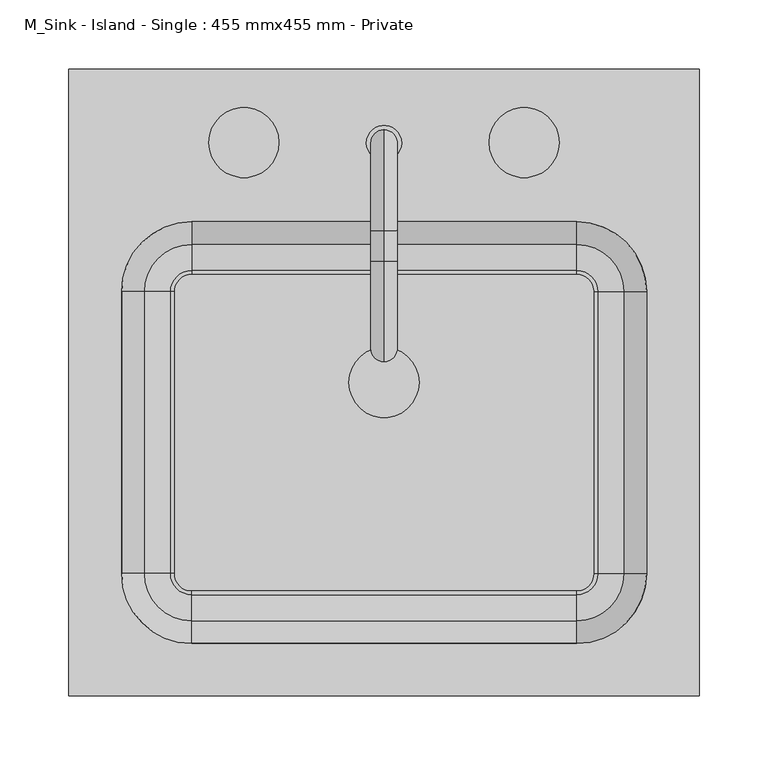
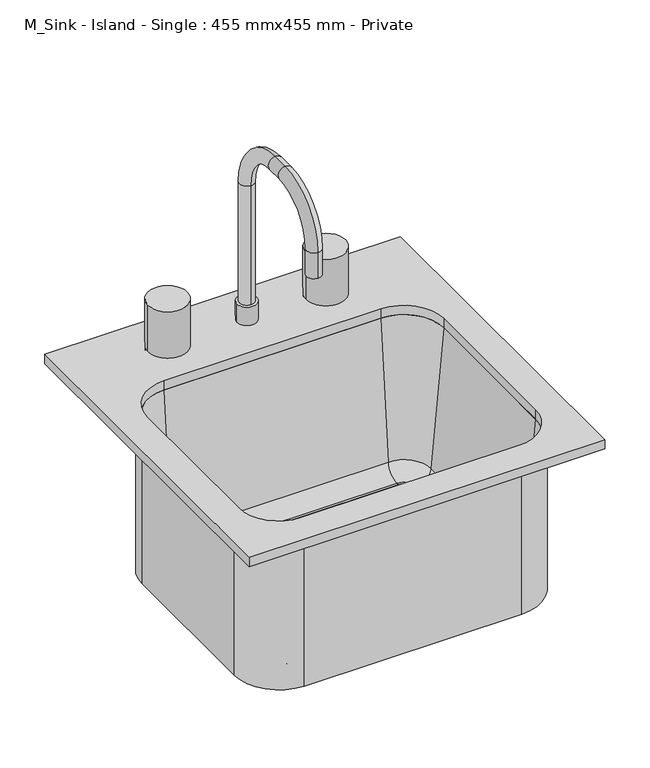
"""IFC4 building model written with IfcOpenShell, lengths in millimetres: flow terminal geometry, M_Sink - Island - Single : 455 mmx455 mm - Private."""

from ifc_helpers import new_model, si_unit, point, frame, frame_2d, origin, origin_with_axes, origin_2d, place, context, project, spatial, polyline, circle_curve, ellipse_curve, trimmed, segment, composite_curve, outline, extrude, source, transform, mapped, element, save
from ifc_brep_helpers import plane_surface, cylinder_surface, revolved_surface, advanced_brep


def m_sink_island_single_455_mmx455_mm_private_e9fe1f2b(model_context):
    return source(origin(), model_context, "Body", "SolidModel", [
        advanced_brep(
        [(196.85, 65.8454011, -212.525), (139.7, 122.9954011, -212.525), (139.7, 122.9954011, 0.0), (196.85, 65.8454011, 0.0), (152.4, 65.8454011, -212.525), (139.7, 78.5454011, -212.525), (152.4, 65.8454011, -203.0), (139.7, 78.5454011, -203.0), (154.9884182, 65.8454011, -203.0), (139.7, 81.1338193, -203.0), (173.9659272, 65.8454011, -185.6103169), (139.7, 100.1113283, -185.6103169), (190.5, 65.8454011, 0.0), (139.7, 116.6454011, 0.0), (196.85, -138.7, 0.0), (196.85, -138.7, -212.525), (152.4, -138.7, -212.525), (152.4, -138.7, -203.0), (154.9884182, -138.7, -203.0), (173.9659272, -138.7, -185.6103169), (190.5, -138.7, 0.0), (139.7, -195.85, -212.525), (139.7, -195.85, 0.0), (139.7, -151.4, -212.525), (139.7, -151.4, -203.0), (139.7, -153.9884182, -203.0), (139.7, -172.9659272, -185.6103169), (139.7, -189.5, 0.0), (-139.5, -195.85, 0.0), (-139.5, -195.85, -212.525), (-139.5, -151.4, -212.525), (-139.5, -151.4, -203.0), (-139.5, -153.9884182, -203.0), (-139.5, -172.9659272, -185.6103169), (-139.5, -189.5, 0.0), (-196.65, -138.7, -212.525), (-196.65, -138.7, 0.0), (-152.2, -138.7, -212.525), (-152.2, -138.7, -203.0), (-154.7884182, -138.7, -203.0), (-173.7659272, -138.7, -185.6103169), (-190.3, -138.7, 0.0), (-196.65, 65.8454011, 0.0), (-196.65, 65.8454011, -212.525), (-152.2, 65.8454011, -212.525), (-152.2, 65.8454011, -203.0), (-154.7884182, 65.8454011, -203.0), (-173.7659272, 65.8454011, -185.6103169), (-190.3, 65.8454011, 0.0), (-139.5, 122.9954011, -212.525), (-139.5, 122.9954011, 0.0), (-139.5, 78.5454011, -212.525), (-139.5, 78.5454011, -203.0), (-139.5, 81.1338193, -203.0), (-139.5, 100.1113283, -185.6103169), (-139.5, 116.6454011, 0.0)],
        [
            (0, 1, circle_curve(frame((139.7, 65.8454011, -212.525), z_axis=(0.0, 0.0, 1.0), x_axis=(0.0, 1.0, 0.0)), 57.15)),
            (1, 2),
            (2, 3, circle_curve(frame((139.7, 65.8454011, 0.0), z_axis=(0.0, 0.0, -1.0), x_axis=(0.0, 1.0, 0.0)), 57.15)),
            (3, 0),
            (4, 5, circle_curve(frame((139.7, 65.8454011, -212.525), z_axis=(0.0, 0.0, 1.0), x_axis=(0.0, 1.0, 0.0)), 12.7)),
            (5, 1),
            (0, 4),
            (6, 7, circle_curve(frame((139.7, 65.8454011, -203.0), z_axis=(0.0, 0.0, 1.0), x_axis=(0.0, 1.0, 0.0)), 12.7)),
            (7, 5),
            (4, 6),
            (8, 9, circle_curve(frame((139.7, 65.8454011, -203.0), z_axis=(0.0, 0.0, 1.0), x_axis=(0.0, 1.0, 0.0)), 15.2884182)),
            (9, 7),
            (6, 8),
            (10, 11, circle_curve(frame((139.7, 65.8454011, -185.6103169), z_axis=(0.0, 0.0, 1.0), x_axis=(0.0, 1.0, 0.0)), 34.2659272)),
            (11, 9, circle_curve(frame((139.7, 81.1338193, -183.95), z_axis=(-1.0, 0.0, 0.0), x_axis=(0.0, 1.0, 0.0)), 19.05)),
            (8, 10, circle_curve(frame((154.9884182, 65.8454011, -183.95), z_axis=(0.0, -1.0, 0.0), x_axis=(1.0, 0.0, 0.0)), 19.05)),
            (12, 13, circle_curve(frame((139.7, 65.8454011, 0.0), z_axis=(0.0, 0.0, 1.0), x_axis=(0.0, 1.0, 0.0)), 50.8)),
            (13, 11),
            (10, 12),
            (2, 13),
            (12, 3),
            (3, 14),
            (14, 15),
            (15, 0),
            (15, 16),
            (16, 4),
            (16, 17),
            (17, 6),
            (17, 18),
            (18, 8),
            (18, 19, circle_curve(frame((154.9884182, -138.7, -183.95), z_axis=(0.0, -1.0, 0.0), x_axis=(1.0, 0.0, 0.0)), 19.05)),
            (19, 10),
            (19, 20),
            (20, 12),
            (20, 14),
            (21, 15, circle_curve(frame((139.7, -138.7, -212.525), z_axis=(0.0, 0.0, 1.0), x_axis=(1.0, 0.0, 0.0)), 57.15)),
            (14, 22, circle_curve(frame((139.7, -138.7, 0.0), z_axis=(0.0, 0.0, -1.0), x_axis=(1.0, 0.0, 0.0)), 57.15)),
            (22, 21),
            (23, 16, circle_curve(frame((139.7, -138.7, -212.525), z_axis=(0.0, 0.0, 1.0), x_axis=(1.0, 0.0, 0.0)), 12.7)),
            (21, 23),
            (24, 17, circle_curve(frame((139.7, -138.7, -203.0), z_axis=(0.0, 0.0, 1.0), x_axis=(1.0, 0.0, 0.0)), 12.7)),
            (23, 24),
            (25, 18, circle_curve(frame((139.7, -138.7, -203.0), z_axis=(0.0, 0.0, 1.0), x_axis=(1.0, 0.0, 0.0)), 15.2884182)),
            (24, 25),
            (26, 19, circle_curve(frame((139.7, -138.7, -185.6103169), z_axis=(0.0, 0.0, 1.0), x_axis=(1.0, 0.0, 0.0)), 34.2659272)),
            (25, 26, circle_curve(frame((139.7, -153.9884182, -183.95), z_axis=(-1.0, 0.0, 0.0), x_axis=(0.0, -1.0, 0.0)), 19.05)),
            (27, 20, circle_curve(frame((139.7, -138.7, 0.0), z_axis=(0.0, 0.0, 1.0), x_axis=(1.0, 0.0, 0.0)), 50.8)),
            (26, 27),
            (27, 22),
            (22, 28),
            (28, 29),
            (29, 21),
            (29, 30),
            (30, 23),
            (30, 31),
            (31, 24),
            (31, 32),
            (32, 25),
            (32, 33, circle_curve(frame((-139.5, -153.9884182, -183.95), z_axis=(-1.0, 0.0, 0.0), x_axis=(0.0, -1.0, 0.0)), 19.05)),
            (33, 26),
            (33, 34),
            (34, 27),
            (34, 28),
            (35, 29, circle_curve(frame((-139.5, -138.7, -212.525), z_axis=(0.0, 0.0, 1.0), x_axis=(0.0, -1.0, 0.0)), 57.15)),
            (28, 36, circle_curve(frame((-139.5, -138.7, 0.0), z_axis=(0.0, 0.0, -1.0), x_axis=(0.0, -1.0, 0.0)), 57.15)),
            (36, 35),
            (37, 30, circle_curve(frame((-139.5, -138.7, -212.525), z_axis=(0.0, 0.0, 1.0), x_axis=(0.0, -1.0, 0.0)), 12.7)),
            (35, 37),
            (38, 31, circle_curve(frame((-139.5, -138.7, -203.0), z_axis=(0.0, 0.0, 1.0), x_axis=(0.0, -1.0, 0.0)), 12.7)),
            (37, 38),
            (39, 32, circle_curve(frame((-139.5, -138.7, -203.0), z_axis=(0.0, 0.0, 1.0), x_axis=(0.0, -1.0, 0.0)), 15.2884182)),
            (38, 39),
            (40, 33, circle_curve(frame((-139.5, -138.7, -185.6103169), z_axis=(0.0, 0.0, 1.0), x_axis=(0.0, -1.0, 0.0)), 34.2659272)),
            (39, 40, circle_curve(frame((-154.7884182, -138.7, -183.95), z_axis=(0.0, 1.0, 0.0), x_axis=(-1.0, 0.0, 0.0)), 19.05)),
            (41, 34, circle_curve(frame((-139.5, -138.7, 0.0), z_axis=(0.0, 0.0, 1.0), x_axis=(0.0, -1.0, 0.0)), 50.8)),
            (40, 41),
            (41, 36),
            (36, 42),
            (42, 43),
            (43, 35),
            (43, 44),
            (44, 37),
            (44, 45),
            (45, 38),
            (45, 46),
            (46, 39),
            (46, 47, circle_curve(frame((-154.7884182, 65.8454011, -183.95), z_axis=(0.0, 1.0, 0.0), x_axis=(-1.0, 0.0, 0.0)), 19.05)),
            (47, 40),
            (47, 48),
            (48, 41),
            (48, 42),
            (49, 43, circle_curve(frame((-139.5, 65.8454011, -212.525), z_axis=(0.0, 0.0, 1.0), x_axis=(-1.0, 0.0, 0.0)), 57.15)),
            (42, 50, circle_curve(frame((-139.5, 65.8454011, 0.0), z_axis=(0.0, 0.0, -1.0), x_axis=(-1.0, 0.0, 0.0)), 57.15)),
            (50, 49),
            (51, 44, circle_curve(frame((-139.5, 65.8454011, -212.525), z_axis=(0.0, 0.0, 1.0), x_axis=(-1.0, 0.0, 0.0)), 12.7)),
            (49, 51),
            (52, 45, circle_curve(frame((-139.5, 65.8454011, -203.0), z_axis=(0.0, 0.0, 1.0), x_axis=(-1.0, 0.0, 0.0)), 12.7)),
            (51, 52),
            (53, 46, circle_curve(frame((-139.5, 65.8454011, -203.0), z_axis=(0.0, 0.0, 1.0), x_axis=(-1.0, 0.0, 0.0)), 15.2884182)),
            (52, 53),
            (54, 47, circle_curve(frame((-139.5, 65.8454011, -185.6103169), z_axis=(0.0, 0.0, 1.0), x_axis=(-1.0, 0.0, 0.0)), 34.2659272)),
            (53, 54, circle_curve(frame((-139.5, 81.1338193, -183.95), z_axis=(1.0, 0.0, 0.0), x_axis=(0.0, 1.0, 0.0)), 19.05)),
            (55, 48, circle_curve(frame((-139.5, 65.8454011, 0.0), z_axis=(0.0, 0.0, 1.0), x_axis=(-1.0, 0.0, 0.0)), 50.8)),
            (54, 55),
            (55, 50),
            (50, 2),
            (1, 49),
            (5, 51),
            (7, 52),
            (9, 53),
            (11, 54),
            (13, 55),
        ],
        [
            cylinder_surface(frame((139.7, 65.8454011, -914.4), z_axis=(0.0, 0.0, -1.0), x_axis=(0.0, 1.0, 0.0)), 57.15),
            plane_surface(frame((139.7, 65.8454011, -212.525), z_axis=(0.0, 0.0, -1.0), x_axis=(0.0, 1.0, 0.0))),
            revolved_surface(polyline([(139.7, 78.5454011, -212.52499999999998), (139.7, 78.5454011, -203.0)]), (139.7, 65.8454011, -914.4), (0.0, 0.0, -1.0)),
            plane_surface(frame((139.7, 65.8454011, -203.0), z_axis=(0.0, 0.0, 1.0), x_axis=(0.0, 1.0, 0.0))),
            revolved_surface(trimmed(ellipse_curve(frame((139.7, 81.1338193, -183.95), z_axis=(1.0, 0.0, 0.0), x_axis=(0.0, 1.0, 0.0)), 19.05, 19.05), [point((139.7, 81.1338193, -203.0))], [point((139.7, 100.1113283, -185.6103169))], True, "CARTESIAN"), (139.7, 65.8454011, -914.4), (0.0, 0.0, -1.0)),
            revolved_surface(polyline([(139.7, 100.1113283, -185.6103169), (139.7, 116.6454011, 0.0)]), (139.7, 65.8454011, -914.4), (0.0, 0.0, -1.0)),
            plane_surface(frame((139.7, 65.8454011, 0.0), z_axis=(0.0, 0.0, 1.0), x_axis=(0.0, 1.0, 0.0))),
            plane_surface(frame((196.85, 65.8454011, 0.0), z_axis=(1.0, 0.0, 0.0), x_axis=(0.0, -1.0, 0.0))),
            plane_surface(frame((196.85, 65.8454011, -212.525), z_axis=(0.0, 0.0, -1.0), x_axis=(0.0, -1.0, 0.0))),
            plane_surface(frame((152.4, 65.8454011, -212.525), z_axis=(-1.0, 0.0, 0.0), x_axis=(0.0, -1.0, 0.0))),
            plane_surface(frame((152.4, 65.8454011, -203.0), z_axis=(0.0, 0.0, 1.0), x_axis=(0.0, -1.0, 0.0))),
            revolved_surface(polyline([(174.03841820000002, -138.7, -183.95), (174.03841820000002, 65.8454011, -183.95)]), (154.9884182, 65.8454011, -183.95), (0.0, -1.0, 0.0)),
            plane_surface(frame((173.9659272, 65.8454011, -185.6103169), z_axis=(-0.996055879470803, 0.0, 0.08872815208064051), x_axis=(0.0, -1.0, 0.0))),
            plane_surface(frame((190.5, 65.8454011, 0.0), z_axis=(0.0, 0.0, 1.0), x_axis=(0.0, -1.0, 0.0))),
            cylinder_surface(frame((139.7, -138.7, -914.4), z_axis=(0.0, 0.0, -1.0), x_axis=(1.0, 0.0, 0.0)), 57.15),
            plane_surface(frame((139.7, -138.7, -212.525), z_axis=(0.0, 0.0, -1.0), x_axis=(1.0, 0.0, 0.0))),
            revolved_surface(polyline([(152.39999999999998, -138.7, -212.52499999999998), (152.39999999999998, -138.7, -203.0)]), (139.7, -138.7, -914.4), (0.0, 0.0, -1.0)),
            plane_surface(frame((139.7, -138.7, -203.0), z_axis=(0.0, 0.0, 1.0), x_axis=(1.0, 0.0, 0.0))),
            revolved_surface(trimmed(ellipse_curve(frame((154.9884182, -138.7, -183.95), z_axis=(0.0, -1.0, 0.0), x_axis=(1.0, 0.0, 0.0)), 19.05, 19.05), [point((154.9884182, -138.7, -203.0))], [point((173.9659272, -138.7, -185.6103169))], True, "CARTESIAN"), (139.7, -138.7, -914.4), (0.0, 0.0, -1.0)),
            revolved_surface(polyline([(173.9659272, -138.7, -185.6103169), (190.5, -138.7, 0.0)]), (139.7, -138.7, -914.4), (0.0, 0.0, -1.0)),
            plane_surface(frame((139.7, -138.7, 0.0), z_axis=(0.0, 0.0, 1.0), x_axis=(1.0, 0.0, 0.0))),
            plane_surface(frame((139.7, -195.85, 0.0), z_axis=(0.0, -1.0, 0.0), x_axis=(-1.0, 0.0, 0.0))),
            plane_surface(frame((139.7, -195.85, -212.525), z_axis=(0.0, 0.0, -1.0), x_axis=(-1.0, 0.0, 0.0))),
            plane_surface(frame((139.7, -151.4, -212.525), z_axis=(0.0, 1.0, 0.0), x_axis=(-1.0, 0.0, 0.0))),
            plane_surface(frame((139.7, -151.4, -203.0), z_axis=(0.0, 0.0, 1.0), x_axis=(-1.0, 0.0, 0.0))),
            revolved_surface(polyline([(-139.5, -173.03841820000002, -183.95), (139.7, -173.03841820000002, -183.95)]), (139.7, -153.9884182, -183.95), (-1.0, 0.0, 0.0)),
            plane_surface(frame((139.7, -172.9659272, -185.6103169), z_axis=(0.0, 0.996055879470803, 0.08872815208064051), x_axis=(-1.0, 0.0, 0.0))),
            plane_surface(frame((139.7, -189.5, 0.0), z_axis=(0.0, 0.0, 1.0), x_axis=(-1.0, 0.0, 0.0))),
            cylinder_surface(frame((-139.5, -138.7, -914.4), z_axis=(0.0, 0.0, -1.0), x_axis=(0.0, -1.0, 0.0)), 57.15),
            plane_surface(frame((-139.5, -138.7, -212.525), z_axis=(0.0, 0.0, -1.0), x_axis=(0.0, -1.0, 0.0))),
            revolved_surface(polyline([(-139.5, -151.39999999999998, -212.52499999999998), (-139.5, -151.39999999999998, -203.0)]), (-139.5, -138.7, -914.4), (0.0, 0.0, -1.0)),
            plane_surface(frame((-139.5, -138.7, -203.0), z_axis=(0.0, 0.0, 1.0), x_axis=(0.0, -1.0, 0.0))),
            revolved_surface(trimmed(ellipse_curve(frame((-139.5, -153.9884182, -183.95), z_axis=(-1.0, 0.0, 0.0), x_axis=(0.0, -1.0, 0.0)), 19.05, 19.05), [point((-139.5, -153.9884182, -203.0))], [point((-139.5, -172.9659272, -185.6103169))], True, "CARTESIAN"), (-139.5, -138.7, -914.4), (0.0, 0.0, -1.0)),
            revolved_surface(polyline([(-139.5, -172.9659272, -185.6103169), (-139.5, -189.5, 0.0)]), (-139.5, -138.7, -914.4), (0.0, 0.0, -1.0)),
            plane_surface(frame((-139.5, -138.7, 0.0), z_axis=(0.0, 0.0, 1.0), x_axis=(0.0, -1.0, 0.0))),
            plane_surface(frame((-196.65, -138.7, 0.0), z_axis=(-1.0, 0.0, 0.0), x_axis=(0.0, 1.0, 0.0))),
            plane_surface(frame((-196.65, -138.7, -212.525), z_axis=(0.0, 0.0, -1.0), x_axis=(0.0, 1.0, 0.0))),
            plane_surface(frame((-152.2, -138.7, -212.525), z_axis=(1.0, 0.0, 0.0), x_axis=(0.0, 1.0, 0.0))),
            plane_surface(frame((-152.2, -138.7, -203.0), z_axis=(0.0, 0.0, 1.0), x_axis=(0.0, 1.0, 0.0))),
            revolved_surface(polyline([(-173.8384182, 65.8454011, -183.95), (-173.8384182, -138.7, -183.95)]), (-154.7884182, -138.7, -183.95), (0.0, 1.0, 0.0)),
            plane_surface(frame((-173.7659272, -138.7, -185.6103169), z_axis=(0.996055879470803, 0.0, 0.08872815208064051), x_axis=(0.0, 1.0, 0.0))),
            plane_surface(frame((-190.3, -138.7, 0.0), z_axis=(0.0, 0.0, 1.0), x_axis=(0.0, 1.0, 0.0))),
            cylinder_surface(frame((-139.5, 65.8454011, -914.4), z_axis=(0.0, 0.0, -1.0), x_axis=(-1.0, 0.0, 0.0)), 57.15),
            plane_surface(frame((-139.5, 65.8454011, -212.525), z_axis=(0.0, 0.0, -1.0), x_axis=(-1.0, 0.0, 0.0))),
            revolved_surface(polyline([(-152.2, 65.8454011, -212.52499999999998), (-152.2, 65.8454011, -203.0)]), (-139.5, 65.8454011, -914.4), (0.0, 0.0, -1.0)),
            plane_surface(frame((-139.5, 65.8454011, -203.0), z_axis=(0.0, 0.0, 1.0), x_axis=(-1.0, 0.0, 0.0))),
            revolved_surface(trimmed(ellipse_curve(frame((-154.7884182, 65.8454011, -183.95), z_axis=(0.0, 1.0, 0.0), x_axis=(-1.0, 0.0, 0.0)), 19.05, 19.05), [point((-154.7884182, 65.8454011, -203.0))], [point((-173.7659272, 65.8454011, -185.6103169))], True, "CARTESIAN"), (-139.5, 65.8454011, -914.4), (0.0, 0.0, -1.0)),
            revolved_surface(polyline([(-173.7659272, 65.8454011, -185.6103169), (-190.3, 65.8454011, 0.0)]), (-139.5, 65.8454011, -914.4), (0.0, 0.0, -1.0)),
            plane_surface(frame((-139.5, 65.8454011, 0.0), z_axis=(0.0, 0.0, 1.0), x_axis=(-1.0, 0.0, 0.0))),
            plane_surface(frame((-139.5, 122.9954011, 0.0), z_axis=(0.0, 1.0, 0.0), x_axis=(1.0, 0.0, 0.0))),
            plane_surface(frame((-139.5, 122.9954011, -212.525), z_axis=(0.0, 0.0, -1.0), x_axis=(1.0, 0.0, 0.0))),
            plane_surface(frame((-139.5, 78.5454011, -212.525), z_axis=(0.0, -1.0, 0.0), x_axis=(1.0, 0.0, 0.0))),
            plane_surface(frame((-139.5, 78.5454011, -203.0), z_axis=(0.0, 0.0, 1.0), x_axis=(1.0, 0.0, 0.0))),
            revolved_surface(polyline([(139.7, 100.1838193, -183.95), (-139.5, 100.1838193, -183.95)]), (-139.5, 81.1338193, -183.95), (1.0, 0.0, 0.0)),
            plane_surface(frame((-139.5, 100.1113283, -185.6103169), z_axis=(0.0, -0.996055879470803, 0.08872815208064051), x_axis=(1.0, 0.0, 0.0))),
            plane_surface(frame((-139.5, 116.6454011, 0.0), z_axis=(0.0, 0.0, 1.0), x_axis=(1.0, 0.0, 0.0))),
        ],
        [
            (0, [[1, 2, 3, 4]]),
            (1, [[5, 6, -1, 7]]),
            (2, [[8, 9, -5, 10]]),
            (3, [[11, 12, -8, 13]]),
            (4, [[14, 15, -11, 16]]),
            (5, [[17, 18, -14, 19]]),
            (6, [[-3, 20, -17, 21]]),
            (7, [[-4, 22, 23, 24]]),
            (8, [[-7, -24, 25, 26]]),
            (9, [[-10, -26, 27, 28]]),
            (10, [[-13, -28, 29, 30]]),
            (11, [[-16, -30, 31, 32]]),
            (12, [[-19, -32, 33, 34]]),
            (13, [[-21, -34, 35, -22]]),
            (14, [[36, -23, 37, 38]]),
            (15, [[39, -25, -36, 40]]),
            (16, [[41, -27, -39, 42]]),
            (17, [[43, -29, -41, 44]]),
            (18, [[45, -31, -43, 46]]),
            (19, [[47, -33, -45, 48]]),
            (20, [[-37, -35, -47, 49]]),
            (21, [[-38, 50, 51, 52]]),
            (22, [[-40, -52, 53, 54]]),
            (23, [[-42, -54, 55, 56]]),
            (24, [[-44, -56, 57, 58]]),
            (25, [[-46, -58, 59, 60]]),
            (26, [[-48, -60, 61, 62]]),
            (27, [[-49, -62, 63, -50]]),
            (28, [[64, -51, 65, 66]]),
            (29, [[67, -53, -64, 68]]),
            (30, [[69, -55, -67, 70]]),
            (31, [[71, -57, -69, 72]]),
            (32, [[73, -59, -71, 74]]),
            (33, [[75, -61, -73, 76]]),
            (34, [[-65, -63, -75, 77]]),
            (35, [[-66, 78, 79, 80]]),
            (36, [[-68, -80, 81, 82]]),
            (37, [[-70, -82, 83, 84]]),
            (38, [[-72, -84, 85, 86]]),
            (39, [[-74, -86, 87, 88]]),
            (40, [[-76, -88, 89, 90]]),
            (41, [[-77, -90, 91, -78]]),
            (42, [[92, -79, 93, 94]]),
            (43, [[95, -81, -92, 96]]),
            (44, [[97, -83, -95, 98]]),
            (45, [[99, -85, -97, 100]]),
            (46, [[101, -87, -99, 102]]),
            (47, [[103, -89, -101, 104]]),
            (48, [[-93, -91, -103, 105]]),
            (49, [[-94, 106, -2, 107]]),
            (50, [[-96, -107, -6, 108]]),
            (51, [[-98, -108, -9, 109]]),
            (52, [[-100, -109, -12, 110]]),
            (53, [[-102, -110, -15, 111]]),
            (54, [[-104, -111, -18, 112]]),
            (55, [[-105, -112, -20, -106]]),
        ],
    ),
        extrude(outline(polyline([(228.5, 227.5), (228.5, -227.5), (-228.5, -227.5), (-228.5, 227.5), (228.5, 227.5)]), holes=[composite_curve([segment(polyline([(139.7, 116.6454011), (-139.5, 116.6454011)]), True, "CONTINUOUS"), segment(trimmed(circle_curve(frame_2d((-139.5, 65.8454011)), 50.8), [point((-139.5, 116.6454011))], [point((-190.3, 65.8454011))], True, "CARTESIAN"), True, "CONTINUOUS"), segment(polyline([(-190.3, 65.8454011), (-190.3, -138.7)]), True, "CONTINUOUS"), segment(trimmed(circle_curve(frame_2d((-139.5, -138.7)), 50.8), [point((-190.3, -138.7))], [point((-139.5, -189.5))], True, "CARTESIAN"), True, "CONTINUOUS"), segment(polyline([(-139.5, -189.5), (139.7, -189.5)]), True, "CONTINUOUS"), segment(trimmed(circle_curve(frame_2d((139.7, -138.7)), 50.8), [point((139.7, -189.5))], [point((190.5, -138.7))], True, "CARTESIAN"), True, "CONTINUOUS"), segment(polyline([(190.5, -138.7), (190.5, 65.8454011)]), True, "CONTINUOUS"), segment(trimmed(circle_curve(frame_2d((139.7, 65.8454011)), 50.8), [point((190.5, 65.8454011))], [point((139.7, 116.6454011))], True, "CARTESIAN"), True, "CONTINUOUS")], self_intersect=False)]), origin_with_axes(), (0.0, 0.0, 1.0), 12.7),
        extrude(outline(composite_curve([segment(trimmed(circle_curve(frame_2d((139.7, 65.8454011)), 12.7), [point((139.7, 78.5454011))], [point((152.4, 65.8454011))], False, "CARTESIAN"), True, "CONTINUOUS"), segment(polyline([(152.4, 65.8454011), (152.4, -138.7)]), True, "CONTINUOUS"), segment(trimmed(circle_curve(frame_2d((139.7, -138.7)), 12.7), [point((152.4, -138.7))], [point((139.7, -151.4))], False, "CARTESIAN"), True, "CONTINUOUS"), segment(polyline([(139.7, -151.4), (-139.5, -151.4)]), True, "CONTINUOUS"), segment(trimmed(circle_curve(frame_2d((-139.5, -138.7)), 12.7), [point((-139.5, -151.4))], [point((-152.2, -138.7))], False, "CARTESIAN"), True, "CONTINUOUS"), segment(polyline([(-152.2, -138.7), (-152.2, 65.8454011)]), True, "CONTINUOUS"), segment(trimmed(circle_curve(frame_2d((-139.5, 65.8454011)), 12.7), [point((-152.2, 65.8454011))], [point((-139.5, 78.5454011))], False, "CARTESIAN"), True, "CONTINUOUS"), segment(polyline([(-139.5, 78.5454011), (139.7, 78.5454011)]), True, "CONTINUOUS")], self_intersect=False), holes=[composite_curve([segment(trimmed(circle_curve(origin_2d(), 25.4), [point((-25.4, 0.0))], [point((25.4, 0.0))], True, "CARTESIAN"), True, "CONTINUOUS"), segment(trimmed(circle_curve(origin_2d(), 25.4), [point((25.4, 0.0))], [point((-25.4, 0.0))], True, "CARTESIAN"), True, "CONTINUOUS")], self_intersect=False)]), frame((0.0, 0.0, -212.525), z_axis=(0.0, 0.0, 1.0), x_axis=(1.0, 0.0, 0.0)), (0.0, 0.0, 1.0), 9.525),
        extrude(outline(composite_curve([segment(trimmed(circle_curve(frame_2d((0.0, 173.7954011)), 12.7), [point((-12.7, 173.7954011))], [point((12.7, 173.7954011))], False, "CARTESIAN"), True, "CONTINUOUS"), segment(trimmed(circle_curve(frame_2d((0.0, 173.7954011)), 12.7), [point((12.7, 173.7954011))], [point((-12.7, 173.7954011))], False, "CARTESIAN"), True, "CONTINUOUS")], self_intersect=False)), frame((0.0, 0.0, 12.7), z_axis=(0.0, 0.0, 1.0), x_axis=(1.0, 0.0, 0.0)), (0.0, 0.0, 1.0), 25.4),
        advanced_brep(
        [(0.0, 183.3204011, 12.7), (0.0, 164.2704011, 12.7), (0.0, 183.3204011, 200.025), (0.0, 164.2704011, 200.025), (0.0, 110.2954011, 254.0), (0.0, 110.2954011, 273.05), (0.0, 88.0704011, 273.05), (0.0, 88.0704011, 254.0), (0.0, 34.0954011, 200.025), (0.0, 15.0454011, 200.025), (0.0, 15.0454011, 165.1), (0.0, 34.0954011, 165.1)],
        [
            (0, 1, circle_curve(frame((0.0, 173.7954011, 12.7), z_axis=(0.0, 0.0, -1.0), x_axis=(0.0, -1.0, 0.0)), 9.525)),
            (1, 0, circle_curve(frame((0.0, 173.7954011, 12.7), z_axis=(0.0, 0.0, -1.0), x_axis=(0.0, -1.0, 0.0)), 9.525)),
            (0, 2),
            (2, 3, circle_curve(frame((0.0, 173.7954011, 200.025), z_axis=(0.0, 0.0, -1.0), x_axis=(0.0, -1.0, 0.0)), 9.525)),
            (3, 1),
            (3, 2, circle_curve(frame((0.0, 173.7954011, 200.025), z_axis=(0.0, 0.0, -1.0), x_axis=(0.0, -1.0, 0.0)), 9.525)),
            (4, 3, circle_curve(frame((0.0, 110.2954011, 200.025), z_axis=(-1.0, 0.0, 0.0), x_axis=(0.0, 1.0, 0.0)), 53.975)),
            (2, 5, circle_curve(frame((0.0, 110.2954011, 200.025), z_axis=(1.0, 0.0, 0.0), x_axis=(0.0, 1.0, 0.0)), 73.025)),
            (5, 4, circle_curve(frame((0.0, 110.2954011, 263.525), z_axis=(0.0, 1.0, 0.0), x_axis=(0.0, 0.0, -1.0)), 9.525)),
            (4, 5, circle_curve(frame((0.0, 110.2954011, 263.525), z_axis=(0.0, 1.0, 0.0), x_axis=(0.0, 0.0, -1.0)), 9.525)),
            (5, 6),
            (6, 7, circle_curve(frame((0.0, 88.0704011, 263.525), z_axis=(0.0, 1.0, 0.0), x_axis=(0.0, 0.0, -1.0)), 9.525)),
            (7, 4),
            (7, 6, circle_curve(frame((0.0, 88.0704011, 263.525), z_axis=(0.0, 1.0, 0.0), x_axis=(0.0, 0.0, -1.0)), 9.525)),
            (8, 7, circle_curve(frame((0.0, 88.0704011, 200.025), z_axis=(-1.0, 0.0, 0.0), x_axis=(0.0, 0.0, 1.0)), 53.975)),
            (6, 9, circle_curve(frame((0.0, 88.0704011, 200.025), z_axis=(1.0, 0.0, 0.0), x_axis=(0.0, 0.0, 1.0)), 73.025)),
            (9, 8, circle_curve(frame((0.0, 24.5704011, 200.025), z_axis=(0.0, 0.0, 1.0), x_axis=(0.0, 1.0, 0.0)), 9.525)),
            (8, 9, circle_curve(frame((0.0, 24.5704011, 200.025), z_axis=(0.0, 0.0, 1.0), x_axis=(0.0, 1.0, 0.0)), 9.525)),
            (10, 11, circle_curve(frame((0.0, 24.5704011, 165.1), z_axis=(0.0, 0.0, -1.0), x_axis=(0.0, 1.0, 0.0)), 9.525)),
            (11, 10, circle_curve(frame((0.0, 24.5704011, 165.1), z_axis=(0.0, 0.0, -1.0), x_axis=(0.0, 1.0, 0.0)), 9.525)),
            (9, 10),
            (11, 8),
        ],
        [
            plane_surface(frame((0.0, 164.2704011, 12.7), z_axis=(0.0, 0.0, -1.0), x_axis=(1.0, 0.0, 0.0))),
            cylinder_surface(frame((0.0, 173.7954011, 12.7), z_axis=(0.0, 0.0, -1.0), x_axis=(0.0, -1.0, 0.0)), 9.525),
            revolved_surface(trimmed(ellipse_curve(frame((0.0, 173.7954011, 200.025), z_axis=(0.0, 0.0, -1.0), x_axis=(0.0, -1.0, 0.0)), 9.525, 9.525), [point((0.0, 183.3204011, 200.025))], [point((0.0, 164.2704011, 200.025))], True, "CARTESIAN"), (0.0, 110.2954011, 200.025), (1.0, 0.0, 0.0)),
            revolved_surface(trimmed(ellipse_curve(frame((0.0, 173.7954011, 200.025), z_axis=(0.0, 0.0, -1.0), x_axis=(0.0, -1.0, 0.0)), 9.525, 9.525), [point((0.0, 164.2704011, 200.025))], [point((0.0, 183.3204011, 200.025))], True, "CARTESIAN"), (0.0, 110.2954011, 200.025), (1.0, 0.0, 0.0)),
            cylinder_surface(frame((0.0, 110.2954011, 263.525), z_axis=(0.0, 1.0, 0.0), x_axis=(0.0, 0.0, -1.0)), 9.525),
            revolved_surface(trimmed(ellipse_curve(frame((0.0, 88.0704011, 263.525), z_axis=(0.0, 1.0, 0.0), x_axis=(0.0, 0.0, -1.0)), 9.525, 9.525), [point((0.0, 88.0704011, 273.05))], [point((0.0, 88.0704011, 254.0))], True, "CARTESIAN"), (0.0, 88.0704011, 200.025), (1.0, 0.0, 0.0)),
            revolved_surface(trimmed(ellipse_curve(frame((0.0, 88.0704011, 263.525), z_axis=(0.0, 1.0, 0.0), x_axis=(0.0, 0.0, -1.0)), 9.525, 9.525), [point((0.0, 88.0704011, 254.0))], [point((0.0, 88.0704011, 273.05))], True, "CARTESIAN"), (0.0, 88.0704011, 200.025), (1.0, 0.0, 0.0)),
            plane_surface(frame((0.0, 15.0454011, 165.1), z_axis=(0.0, 0.0, -1.0), x_axis=(-1.0, 0.0, 0.0))),
            cylinder_surface(frame((0.0, 24.5704011, 200.025), z_axis=(0.0, 0.0, 1.0), x_axis=(0.0, 1.0, 0.0)), 9.525),
        ],
        [
            (0, [[1, 2]]),
            (1, [[-1, 3, 4, 5]]),
            (1, [[-2, -5, 6, -3]]),
            (2, [[7, -4, 8, 9]]),
            (3, [[-8, -6, -7, 10]]),
            (4, [[-9, 11, 12, 13]]),
            (4, [[-10, -13, 14, -11]]),
            (5, [[15, -12, 16, 17]]),
            (6, [[-16, -14, -15, 18]]),
            (7, [[19, 20]]),
            (8, [[-17, 21, -20, 22]]),
            (8, [[-18, -22, -19, -21]]),
        ],
    ),
        extrude(outline(composite_curve([segment(trimmed(circle_curve(frame_2d((-101.6, 174.0458909)), 25.4), [point((-127.0, 174.0458909))], [point((-76.2, 174.0458909))], False, "CARTESIAN"), True, "CONTINUOUS"), segment(trimmed(circle_curve(frame_2d((-101.6, 174.0458909)), 25.4), [point((-76.2, 174.0458909))], [point((-127.0, 174.0458909))], False, "CARTESIAN"), True, "CONTINUOUS")], self_intersect=False)), origin_with_axes(), (0.0, 0.0, 1.0), 76.2),
        extrude(outline(composite_curve([segment(trimmed(circle_curve(frame_2d((101.6, 174.0458909)), 25.4), [point((76.2, 174.0458909))], [point((127.0, 174.0458909))], False, "CARTESIAN"), True, "CONTINUOUS"), segment(trimmed(circle_curve(frame_2d((101.6, 174.0458909)), 25.4), [point((127.0, 174.0458909))], [point((76.2, 174.0458909))], False, "CARTESIAN"), True, "CONTINUOUS")], self_intersect=False)), origin_with_axes(), (0.0, 0.0, 1.0), 76.2),
        extrude(outline(composite_curve([segment(trimmed(circle_curve(origin_2d(), 25.4), [point((-25.4, 0.0))], [point((25.4, 0.0))], False, "CARTESIAN"), True, "CONTINUOUS"), segment(trimmed(circle_curve(origin_2d(), 25.4), [point((25.4, 0.0))], [point((-25.4, 0.0))], False, "CARTESIAN"), True, "CONTINUOUS")], self_intersect=False)), frame((0.0, 0.0, -212.525), z_axis=(0.0, 0.0, 1.0), x_axis=(1.0, 0.0, 0.0)), (0.0, 0.0, 1.0), 9.525),
    ])


if __name__ == "__main__":
    model = new_model("IFC4")
    model_context = context("Model", 3, world=origin())
    ifc_project = project(units=[si_unit("LENGTHUNIT", "METRE", prefix="MILLI")], contexts=[model_context])
    site = spatial("IfcSite", under=ifc_project)
    building = spatial("IfcBuilding", under=site)
    placement = place(None, origin())
    m_sink_island_single_455_mmx455_mm_private_shape = m_sink_island_single_455_mmx455_mm_private_e9fe1f2b(model_context)
    element("IfcFlowTerminal", 1, ObjectType="M_Sink - Island - Single : 455 mmx455 mm - Private", at=placement, inside=building, context=model_context, shape_type="MappedRepresentation", body=[
        mapped(m_sink_island_single_455_mmx455_mm_private_shape, transform((0.0, 0.0, 0.0), x_axis=(1.0, 0.0, 0.0), y_axis=(0.0, 1.0, 0.0), z_axis=(0.0, 0.0, 1.0))),
    ])
    save(model, "model.ifc")
